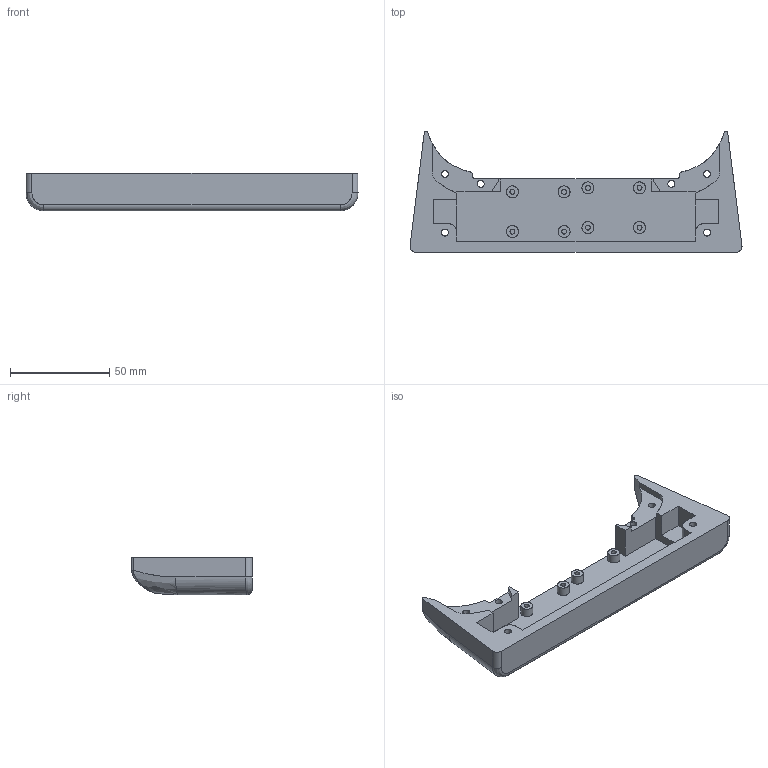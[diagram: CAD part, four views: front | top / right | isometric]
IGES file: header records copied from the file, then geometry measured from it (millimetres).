
Start section: SolidWorks IGES file using analytic representation for surfaces
Global section: file name: C:\Users\holy\Desktop\KRC5FH\GRIP\; native system: Rhinoceros ( Feb 26 2015 ); preprocessor: Trout Lake IGES 012 Feb 26 2015; date: 150529.071146; units: millimetre
Bounding box: 167.2 x 60.85 x 19 mm (x, y, z)
Surface area: 26286.7 mm2 (no closed solid volume)
Topology: 0 solids, 0 shells, 140 faces, 1140 edges, 1092 vertices
Faces by surface type: bspline 140
